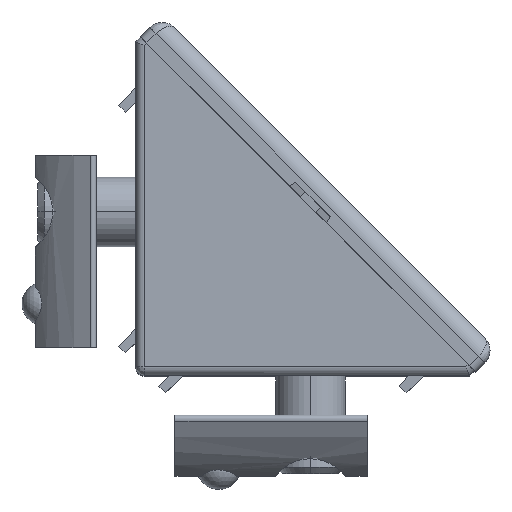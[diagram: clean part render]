
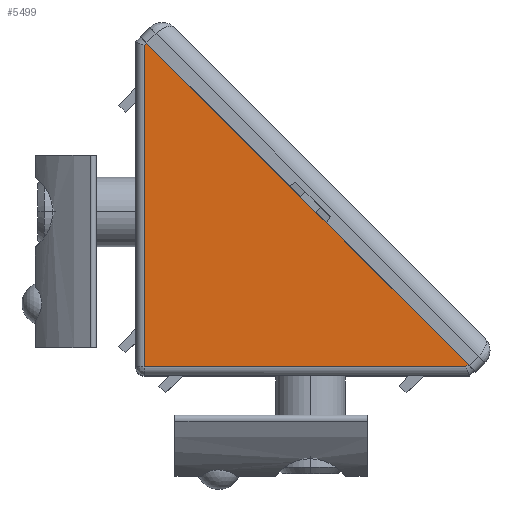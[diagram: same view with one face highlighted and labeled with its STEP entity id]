
A CAD part, top view. The second image highlights one B-rep face of the part: STEP entity #5499.
In plain terms, the highlighted planar face has unit normal (-0.006, -0.006, 1) as drawn and (-1, 0.006, -0.006) by its records, which use the part's own axes.
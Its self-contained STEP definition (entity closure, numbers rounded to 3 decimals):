
#202 = DIRECTION ( 'NONE',  ( -0.006, -1., 0. ) ) ;
#761 = CARTESIAN_POINT ( 'NONE',  ( 0.006, -37.763, -37.756 ) ) ;
#1037 = ORIENTED_EDGE ( 'NONE', *, *, #7684, .T. ) ;
#1323 = LINE ( 'NONE', #3605, #6352 ) ;
#1379 = VERTEX_POINT ( 'NONE', #4669 ) ;
#1561 = CARTESIAN_POINT ( 'NONE',  ( 0.006, -1.026, -0.954 ) ) ;
#1584 = CARTESIAN_POINT ( 'NONE',  ( 0.006, -0.994, -0.986 ) ) ;
#1819 = CARTESIAN_POINT ( 'NONE',  ( 0.003, -38.042, -37.477 ) ) ;
#2056 = ORIENTED_EDGE ( 'NONE', *, *, #11901, .T. ) ;
#3204 = EDGE_CURVE ( 'NONE', #12024, #1379, #6080, .T. ) ;
#3605 = CARTESIAN_POINT ( 'NONE',  ( 0.003, -0.566, 0. ) ) ;
#3682 = PLANE ( 'NONE',  #10593 ) ;
#3823 = CARTESIAN_POINT ( 'NONE',  ( 0.233, -0.994, -37.756 ) ) ;
#3863 = ORIENTED_EDGE ( 'NONE', *, *, #3204, .F. ) ;
#3935 = EDGE_CURVE ( 'NONE', #6856, #1379, #1323, .T. ) ;
#4169 = LINE ( 'NONE', #12327, #11971 ) ;
#4669 = CARTESIAN_POINT ( 'NONE',  ( 0.003, -1.273, -0.707 ) ) ;
#4810 = FACE_OUTER_BOUND ( 'NONE', #6008, .T. ) ;
#5395 = CARTESIAN_POINT ( 'NONE',  ( 0.006, -0.994, -0.986 ) ) ;
#5499 = ADVANCED_FACE ( 'NONE', ( #4810 ), #3682, .T. ) ;
#5718 = ORIENTED_EDGE ( 'NONE', *, *, #6187, .T. ) ;
#6008 = EDGE_LOOP ( 'NONE', ( #2056, #5718, #12434, #3863, #1037 ) ) ;
#6080 = LINE ( 'NONE', #1561, #11202 ) ;
#6126 = VERTEX_POINT ( 'NONE', #761 ) ;
#6187 = EDGE_CURVE ( 'NONE', #6126, #6856, #8108, .T. ) ;
#6352 = VECTOR ( 'NONE', #6381, 1000. ) ;
#6381 = DIRECTION ( 'NONE',  ( 0., 0.707, 0.707 ) ) ;
#6856 = VERTEX_POINT ( 'NONE', #11921 ) ;
#7609 = VECTOR ( 'NONE', #12241, 1000. ) ;
#7657 = DIRECTION ( 'NONE',  ( -0.009, -0.707, 0.707 ) ) ;
#7684 = EDGE_CURVE ( 'NONE', #12024, #9233, #13007, .T. ) ;
#8108 = LINE ( 'NONE', #1819, #10821 ) ;
#9233 = VERTEX_POINT ( 'NONE', #3823 ) ;
#9236 = CARTESIAN_POINT ( 'NONE',  ( 0.003, -0.566, 0. ) ) ;
#10108 = DIRECTION ( 'NONE',  ( -0.009, -0.707, 0.707 ) ) ;
#10282 = DIRECTION ( 'NONE',  ( 0.009, 0.707, -0.707 ) ) ;
#10593 = AXIS2_PLACEMENT_3D ( 'NONE', #9236, #10975, #10282 ) ;
#10821 = VECTOR ( 'NONE', #10108, 1000. ) ;
#10975 = DIRECTION ( 'NONE',  ( -1., 0.006, -0.006 ) ) ;
#11202 = VECTOR ( 'NONE', #7657, 1000. ) ;
#11901 = EDGE_CURVE ( 'NONE', #9233, #6126, #4169, .T. ) ;
#11921 = CARTESIAN_POINT ( 'NONE',  ( 0.003, -38.042, -37.477 ) ) ;
#11971 = VECTOR ( 'NONE', #202, 1000. ) ;
#12024 = VERTEX_POINT ( 'NONE', #5395 ) ;
#12241 = DIRECTION ( 'NONE',  ( 0.006, 0., -1. ) ) ;
#12327 = CARTESIAN_POINT ( 'NONE',  ( 0.233, -0.994, -37.756 ) ) ;
#12434 = ORIENTED_EDGE ( 'NONE', *, *, #3935, .T. ) ;
#13007 = LINE ( 'NONE', #1584, #7609 ) ;
